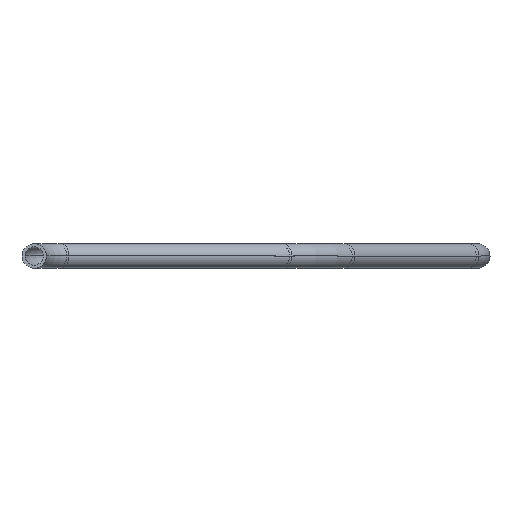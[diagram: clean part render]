
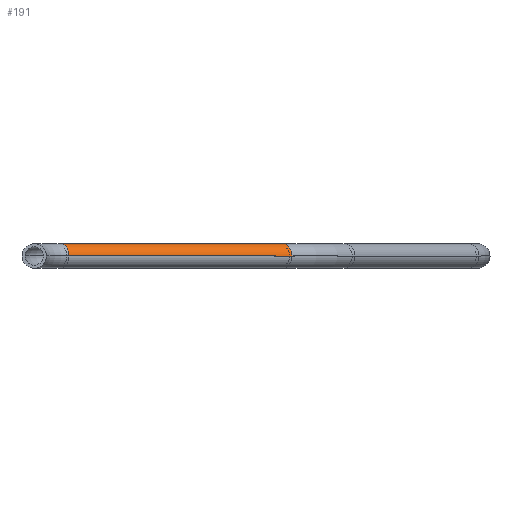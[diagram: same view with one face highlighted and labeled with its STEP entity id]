
A CAD part, left-side view. The second image highlights one B-rep face of the part: STEP entity #191.
In plain terms, the highlighted cylindrical face has radius 4 mm (diameter 8 mm), a partial arc.
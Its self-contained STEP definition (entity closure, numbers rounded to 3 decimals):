
#21 = ORIENTED_EDGE ( 'NONE', *, *, #144, .F. ) ;
#40 = AXIS2_PLACEMENT_3D ( 'NONE', #793, #794, #795 ) ;
#47 = CIRCLE ( 'NONE', #40, 4. ) ;
#56 = VECTOR ( 'NONE', #751, 1000. ) ;
#63 = VECTOR ( 'NONE', #758, 1000. ) ;
#99 = ORIENTED_EDGE ( 'NONE', *, *, #141, .T. ) ;
#101 = EDGE_LOOP ( 'NONE', ( #126, #99, #294, #21 ) ) ;
#126 = ORIENTED_EDGE ( 'NONE', *, *, #156, .T. ) ;
#129 = AXIS2_PLACEMENT_3D ( 'NONE', #401, #397, #404 ) ;
#141 = EDGE_CURVE ( 'NONE', #694, #684, #746, .T. ) ;
#144 = EDGE_CURVE ( 'NONE', #686, #696, #753, .T. ) ;
#156 = EDGE_CURVE ( 'NONE', #686, #694, #47, .T. ) ;
#191 = ADVANCED_FACE ( 'NONE', ( #400 ), #403, .T. ) ;
#231 = CIRCLE ( 'NONE', #234, 4. ) ;
#234 = AXIS2_PLACEMENT_3D ( 'NONE', #498, #499, #500 ) ;
#294 = ORIENTED_EDGE ( 'NONE', *, *, #919, .F. ) ;
#397 = DIRECTION ( 'NONE',  ( 0.647, -0.762, 0. ) ) ;
#400 = FACE_OUTER_BOUND ( 'NONE', #101, .T. ) ;
#401 = CARTESIAN_POINT ( 'NONE',  ( 32.533, -8.823, 0. ) ) ;
#403 = CYLINDRICAL_SURFACE ( 'NONE', #129, 4. ) ;
#404 = DIRECTION ( 'NONE',  ( 0.762, 0.647, 0. ) ) ;
#435 = CARTESIAN_POINT ( 'NONE',  ( 91.411, -84.38, 0. ) ) ;
#437 = CARTESIAN_POINT ( 'NONE',  ( 35.582, -6.235, 0. ) ) ;
#445 = CARTESIAN_POINT ( 'NONE',  ( 29.483, -11.412, 0. ) ) ;
#447 = CARTESIAN_POINT ( 'NONE',  ( 97.51, -79.204, 0. ) ) ;
#498 = CARTESIAN_POINT ( 'NONE',  ( 94.461, -81.792, 0. ) ) ;
#499 = DIRECTION ( 'NONE',  ( 0.647, -0.762, 0. ) ) ;
#500 = DIRECTION ( 'NONE',  ( 0., 0., -1. ) ) ;
#684 = VERTEX_POINT ( 'NONE', #435 ) ;
#686 = VERTEX_POINT ( 'NONE', #437 ) ;
#694 = VERTEX_POINT ( 'NONE', #445 ) ;
#696 = VERTEX_POINT ( 'NONE', #447 ) ;
#744 = CARTESIAN_POINT ( 'NONE',  ( 29.483, -11.412, 0. ) ) ;
#746 = LINE ( 'NONE', #744, #56 ) ;
#750 = CARTESIAN_POINT ( 'NONE',  ( 35.582, -6.235, 0. ) ) ;
#751 = DIRECTION ( 'NONE',  ( 0.647, -0.762, 0. ) ) ;
#753 = LINE ( 'NONE', #750, #63 ) ;
#758 = DIRECTION ( 'NONE',  ( 0.647, -0.762, 0. ) ) ;
#793 = CARTESIAN_POINT ( 'NONE',  ( 32.533, -8.823, 0. ) ) ;
#794 = DIRECTION ( 'NONE',  ( 0.647, -0.762, 0. ) ) ;
#795 = DIRECTION ( 'NONE',  ( 0., 0., -1. ) ) ;
#919 = EDGE_CURVE ( 'NONE', #696, #684, #231, .T. ) ;
